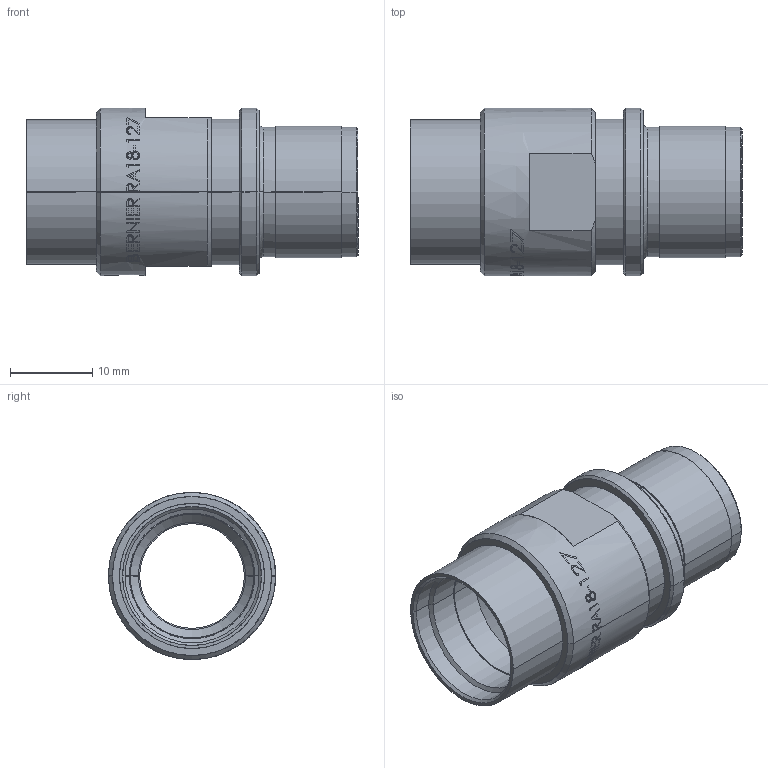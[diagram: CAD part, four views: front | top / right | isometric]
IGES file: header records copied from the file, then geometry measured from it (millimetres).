
Start section: SolidWorks IGES file using analytic representation for surfaces
Global section: file name: K:\BE\Fichiers IGES\CMARA18-127.IGS; native system: SolidWorks 2013; preprocessor: SolidWorks 2013; author: lla; date: 140129.123229; units: millimetre
Bounding box: 40.3 x 20.3 x 20.3 mm (x, y, z)
Surface area: 4442.3 mm2 (no closed solid volume)
Topology: 0 solids, 0 shells, 84 faces, 1432 edges, 1432 vertices
Faces by surface type: revolution 69, bspline 15
